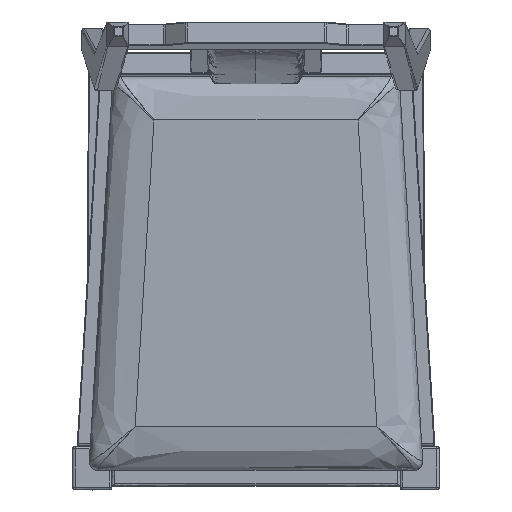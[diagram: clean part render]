
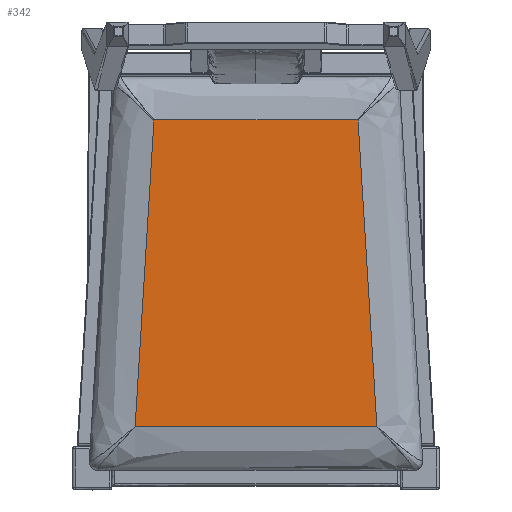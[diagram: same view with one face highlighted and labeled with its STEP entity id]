
A CAD part, top view. The second image highlights one B-rep face of the part: STEP entity #342.
In plain terms, the highlighted planar face has unit normal (0, 0, 1).
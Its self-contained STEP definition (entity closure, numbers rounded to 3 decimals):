
#342=ADVANCED_FACE('',(#830),#7216,.T.);
#830=FACE_OUTER_BOUND('',#1318,.T.);
#1318=EDGE_LOOP('',(#2794,#2795,#2796,#2797));
#2794=ORIENTED_EDGE('',*,*,#4417,.F.);
#2795=ORIENTED_EDGE('',*,*,#4428,.T.);
#2796=ORIENTED_EDGE('',*,*,#4424,.F.);
#2797=ORIENTED_EDGE('',*,*,#4422,.T.);
#4417=EDGE_CURVE('',#6498,#6499,#5190,.T.);
#4422=EDGE_CURVE('',#6488,#6499,#5191,.T.);
#4424=EDGE_CURVE('',#6488,#6493,#5192,.T.);
#4428=EDGE_CURVE('',#6498,#6493,#5193,.T.);
#5190=(
BOUNDED_CURVE()
B_SPLINE_CURVE(3,(#18588,#18589,#18590,#18591),.UNSPECIFIED.,.F.,.F.)
B_SPLINE_CURVE_WITH_KNOTS((4,4),(-1.,0.),.UNSPECIFIED.)
CURVE()
GEOMETRIC_REPRESENTATION_ITEM()
RATIONAL_B_SPLINE_CURVE((1.,1.,1.,1.))
REPRESENTATION_ITEM('')
);
#5191=(
BOUNDED_CURVE()
B_SPLINE_CURVE(3,(#18760,#18761,#18762,#18763),.UNSPECIFIED.,.F.,.F.)
B_SPLINE_CURVE_WITH_KNOTS((4,4),(0.,1.),.UNSPECIFIED.)
CURVE()
GEOMETRIC_REPRESENTATION_ITEM()
RATIONAL_B_SPLINE_CURVE((1.,1.,1.,1.))
REPRESENTATION_ITEM('')
);
#5192=(
BOUNDED_CURVE()
B_SPLINE_CURVE(3,(#18794,#18795,#18796,#18797),.UNSPECIFIED.,.F.,.F.)
B_SPLINE_CURVE_WITH_KNOTS((4,4),(-1.,0.),.UNSPECIFIED.)
CURVE()
GEOMETRIC_REPRESENTATION_ITEM()
RATIONAL_B_SPLINE_CURVE((1.,1.,1.,1.))
REPRESENTATION_ITEM('')
);
#5193=(
BOUNDED_CURVE()
B_SPLINE_CURVE(3,(#18926,#18927,#18928,#18929),.UNSPECIFIED.,.F.,.F.)
B_SPLINE_CURVE_WITH_KNOTS((4,4),(0.,1.),.UNSPECIFIED.)
CURVE()
GEOMETRIC_REPRESENTATION_ITEM()
RATIONAL_B_SPLINE_CURVE((1.,1.,1.,1.))
REPRESENTATION_ITEM('')
);
#6488=VERTEX_POINT('',#18347);
#6493=VERTEX_POINT('',#18352);
#6498=VERTEX_POINT('',#18357);
#6499=VERTEX_POINT('',#18358);
#7216=PLANE('',#7387);
#7387=AXIS2_PLACEMENT_3D('',#17861,#7542,$);
#7542=DIRECTION('',(0.,0.,1.));
#17861=CARTESIAN_POINT('',(-166.213,458.841,450.));
#18347=CARTESIAN_POINT('',(-116.912,423.699,450.));
#18352=CARTESIAN_POINT('',(116.912,423.699,450.));
#18357=CARTESIAN_POINT('',(138.51,72.29,450.));
#18358=CARTESIAN_POINT('',(-138.51,72.29,450.));
#18588=CARTESIAN_POINT('',(138.51,72.29,450.));
#18589=CARTESIAN_POINT('',(46.17,72.29,450.));
#18590=CARTESIAN_POINT('',(-46.17,72.29,450.));
#18591=CARTESIAN_POINT('',(-138.51,72.29,450.));
#18760=CARTESIAN_POINT('',(-116.912,423.699,450.));
#18761=CARTESIAN_POINT('',(-124.111,306.563,450.));
#18762=CARTESIAN_POINT('',(-131.311,189.426,450.));
#18763=CARTESIAN_POINT('',(-138.51,72.29,450.));
#18794=CARTESIAN_POINT('',(-116.912,423.699,450.));
#18795=CARTESIAN_POINT('',(-38.971,423.699,450.));
#18796=CARTESIAN_POINT('',(38.971,423.699,450.));
#18797=CARTESIAN_POINT('',(116.912,423.699,450.));
#18926=CARTESIAN_POINT('',(138.51,72.29,450.));
#18927=CARTESIAN_POINT('',(131.311,189.426,450.));
#18928=CARTESIAN_POINT('',(124.111,306.563,450.));
#18929=CARTESIAN_POINT('',(116.912,423.699,450.));
